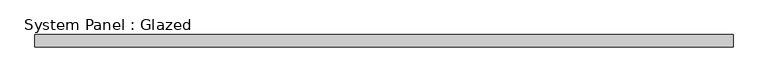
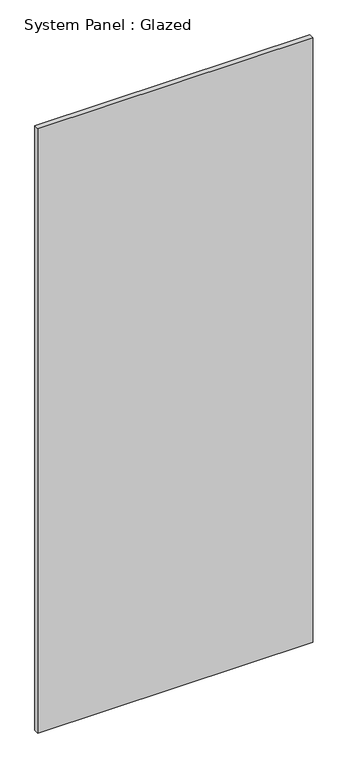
"""IFC4 building model written with IfcOpenShell, lengths in millimetres: plate geometry, System Panel : Glazed."""

import ifcopenshell
import ifcopenshell.guid

model = None  # the IFC model being written
_history = None  # IfcOwnerHistory: only IFC2X3 demands one
_inside = {}  # id of a spatial element -> (the spatial element, [elements in it])
_under = {}  # id of a project, library or spatial element -> (it, [spatial elements below it])
_declared = {}  # id of a project -> (the project, [libraries it declares])
_typed = {}  # id of a type object -> (the type object, [elements of that type])
_made_of = {}  # id of a material, layer set ... -> (it, [elements and type objects made of it])


def new_model(schema):
    """Start an empty IFC model of exactly this schema.

    Asked for "IFC4X3", IfcOpenShell would pick the latest addendum, in which some entities
    have other attributes; the version numbers below select the first issue.
    IFC2X3 requires an IfcOwnerHistory on every rooted entity: one is made here for all.
    """
    global model, _history
    if schema == "IFC4X3":
        model = ifcopenshell.file(schema_version=(4, 3, 0, 0))
    else:
        model = ifcopenshell.file(schema=schema)
    _inside.clear()
    _under.clear()
    _declared.clear()
    _typed.clear()
    _made_of.clear()
    _history = None
    if model.schema == "IFC2X3":
        org = make("IfcOrganization", Name="unknown")
        user = make(
            "IfcPersonAndOrganization",
            ThePerson=make("IfcPerson", FamilyName="unknown"),
            TheOrganization=org,
        )
        app = make(
            "IfcApplication",
            ApplicationDeveloper=org,
            Version="unknown",
            ApplicationFullName="unknown",
            ApplicationIdentifier="unknown",
        )
        _history = make(
            "IfcOwnerHistory",
            OwningUser=user,
            OwningApplication=app,
            ChangeAction="ADDED",
            CreationDate=0,
        )
    return model


def make(cls, **values):
    """One entity of the class cls with the attributes given. An attribute that is None is left unset."""
    return model.create_entity(
        cls, **{name: value for name, value in values.items() if value is not None}
    )


def rooted(cls, **values):
    """An entity with a GlobalId (a new one), such as an element, a storey or a relation."""
    return make(cls, GlobalId=ifcopenshell.guid.new(), OwnerHistory=_history, **values)


def si_unit(unit_type, name, prefix=None):
    """IfcSIUnit, for example si_unit("LENGTHUNIT", "METRE", prefix="MILLI")."""
    return make("IfcSIUnit", UnitType=unit_type, Prefix=prefix, Name=name)


def assignment(units):
    """IfcUnitAssignment: the units of a project."""
    return None if units is None else make("IfcUnitAssignment", Units=units)


def point(xyz):
    """IfcCartesianPoint."""
    return None if xyz is None else make("IfcCartesianPoint", Coordinates=xyz)


def direction(xyz):
    """IfcDirection."""
    return None if xyz is None else make("IfcDirection", DirectionRatios=xyz)


def frame(location, z_axis=None, x_axis=None):
    """IfcAxis2Placement3D, a coordinate frame: its origin and axes. An axis left out is left unset."""
    return make(
        "IfcAxis2Placement3D",
        Location=point(location),
        Axis=direction(z_axis),
        RefDirection=direction(x_axis),
    )


def origin():
    """The frame at (0, 0, 0) with its axes left unset."""
    return frame((0.0, 0.0, 0.0))


def origin_with_axes():
    """The frame at (0, 0, 0) with the z axis (0, 0, 1) and the x axis (1, 0, 0) written out."""
    return frame((0.0, 0.0, 0.0), z_axis=(0.0, 0.0, 1.0), x_axis=(1.0, 0.0, 0.0))


def place(relative_to, where):
    """IfcLocalPlacement: puts the frame where relative to a parent placement (None: the world)."""
    return make(
        "IfcLocalPlacement", PlacementRelTo=relative_to, RelativePlacement=where
    )


def context(
    kind, dimensions, precision=None, world=None, true_north=None, identifier=None
):
    """IfcGeometricRepresentationContext, for example the 3D "Model" context."""
    return make(
        "IfcGeometricRepresentationContext",
        ContextIdentifier=identifier,
        ContextType=kind,
        CoordinateSpaceDimension=dimensions,
        Precision=precision,
        WorldCoordinateSystem=world,
        TrueNorth=true_north,
    )


def project(units=None, contexts=None):
    """IfcProject with its units and contexts."""
    return rooted(
        "IfcProject",
        Name="project",
        RepresentationContexts=contexts,
        UnitsInContext=assignment(units),
    )


def spatial(cls, under=None, at=None, **own):
    """A site, building, storey or space (cls), placed at a placement, below another one or the project."""
    s = rooted(cls, ObjectPlacement=at, **own)
    if under is not None:
        _under.setdefault(under.id(), (under, []))[1].append(s)
    return s


def polyline(points):
    """IfcPolyline through the points."""
    return make("IfcPolyline", Points=[point(p) for p in points])


def outline(outer, holes=None, kind="AREA"):
    """IfcArbitraryClosedProfileDef: a profile drawn as a closed curve; with holes, ...WithVoids."""
    if holes is None:
        return make("IfcArbitraryClosedProfileDef", ProfileType=kind, OuterCurve=outer)
    return make(
        "IfcArbitraryProfileDefWithVoids",
        ProfileType=kind,
        OuterCurve=outer,
        InnerCurves=holes,
    )


def extrude(swept, where, along, depth):
    """IfcExtrudedAreaSolid: the profile swept, set in the frame where, extruded along a direction by depth."""
    return make(
        "IfcExtrudedAreaSolid",
        SweptArea=swept,
        Position=where,
        ExtrudedDirection=direction(along),
        Depth=depth,
    )


def shape(context_of_items, identifier, shape_type, items):
    """IfcShapeRepresentation: the items that make up one representation, for example the "Body"."""
    return make(
        "IfcShapeRepresentation",
        ContextOfItems=context_of_items,
        RepresentationIdentifier=identifier,
        RepresentationType=shape_type,
        Items=items,
    )


def source(mapping_origin, context_of_items, identifier, shape_type, items):
    """IfcRepresentationMap: a shape defined once, which mapped items show again and again."""
    return make(
        "IfcRepresentationMap",
        MappingOrigin=mapping_origin,
        MappedRepresentation=shape(context_of_items, identifier, shape_type, items),
    )


def transform(
    local_origin,
    x_axis=None,
    y_axis=None,
    z_axis=None,
    scale=None,
    scale2=None,
    scale3=None,
    uniform=True,
):
    """IfcCartesianTransformationOperator3D, or its non-uniform kind. x_axis, y_axis, z_axis: its Axis1, 2, 3."""
    if uniform:
        return make(
            "IfcCartesianTransformationOperator3D",
            Axis1=direction(x_axis),
            Axis2=direction(y_axis),
            LocalOrigin=point(local_origin),
            Scale=scale,
            Axis3=direction(z_axis),
        )
    return make(
        "IfcCartesianTransformationOperator3DnonUniform",
        Axis1=direction(x_axis),
        Axis2=direction(y_axis),
        LocalOrigin=point(local_origin),
        Scale=scale,
        Axis3=direction(z_axis),
        Scale2=scale2,
        Scale3=scale3,
    )


def mapped(mapping_source, mapping_target):
    """IfcMappedItem: shows the shape of a source again, moved by a transform."""
    return make(
        "IfcMappedItem", MappingSource=mapping_source, MappingTarget=mapping_target
    )


def made_of(thing, what):
    """Note that an element or type object is made of a material, layer set ...; save() writes the relation."""
    if what is not None:
        _made_of.setdefault(what.id(), (what, []))[1].append(thing)
    return thing


def element(
    cls,
    number,
    at=None,
    inside=None,
    cuts=None,
    type_object=None,
    material=None,
    context=None,
    identifier="Body",
    shape_type=None,
    held_by="IfcProductDefinitionShape",
    body=None,
    shapes=None,
    **own,
):
    """One element of the class cls, such as IfcWall. Its Tag is "e" and its number.

    at: its placement. inside: the storey or other place that contains it. cuts: it is an
    opening in that element (IfcRelVoidsElement). A single representation is given by context,
    identifier, shape_type and body (its items); several are given by shapes. held_by: the class
    of the entity that holds the representations. save() writes the other relations.
    """
    e = rooted(cls, Tag="e%d" % number, ObjectPlacement=at, **own)
    if body is not None:
        shapes = [shape(context, identifier, shape_type, body)]
    if shapes is not None:
        e.Representation = make(held_by, Representations=shapes)
    if inside is not None:
        _inside.setdefault(inside.id(), (inside, []))[1].append(e)
    if cuts is not None:
        rooted(
            "IfcRelVoidsElement", RelatingBuildingElement=cuts, RelatedOpeningElement=e
        )
    if type_object is not None:
        _typed.setdefault(type_object.id(), (type_object, []))[1].append(e)
    return made_of(e, material)


def aggregate(whole, parts):
    """IfcRelAggregates: a whole, such as a stair, and the parts it consists of."""
    return rooted("IfcRelAggregates", RelatingObject=whole, RelatedObjects=parts)


def save(model, path):
    """Write the relations noted so far, then the file.

    IfcRelAggregates (storeys below a building ...), IfcRelContainedInSpatialStructure (elements
    in a storey), IfcRelDefinesByType, IfcRelAssociatesMaterial and IfcRelDeclares: one each for
    every whole, place, type object, material and project.
    """
    for whole, parts in _under.values():
        aggregate(whole, parts)
    for where, things in _inside.values():
        rooted(
            "IfcRelContainedInSpatialStructure",
            RelatedElements=things,
            RelatingStructure=where,
        )
    for kind, things in _typed.values():
        rooted("IfcRelDefinesByType", RelatedObjects=things, RelatingType=kind)
    for what, things in _made_of.values():
        rooted("IfcRelAssociatesMaterial", RelatedObjects=things, RelatingMaterial=what)
    for by, libraries in _declared.values():
        rooted("IfcRelDeclares", RelatingContext=by, RelatedDefinitions=libraries)
    model.write(path)


def system_panel_glazed_4545aa77(model_context):
    return source(origin(), model_context, "Body", "SweptSolid", [
        extrude(outline(polyline([(710.0, 24.5), (-710.0, 24.5), (-710.0, 49.5), (710.0, 49.5), (710.0, 24.5)])), origin_with_axes(), (0.0, 0.0, 1.0), 3300.0),
    ])


if __name__ == "__main__":
    model = new_model("IFC4")
    model_context = context("Model", 3, world=origin())
    ifc_project = project(units=[si_unit("LENGTHUNIT", "METRE", prefix="MILLI")], contexts=[model_context])
    site = spatial("IfcSite", under=ifc_project)
    building = spatial("IfcBuilding", under=site)
    placement = place(None, origin())
    system_panel_glazed_shape = system_panel_glazed_4545aa77(model_context)
    element("IfcPlate", 1, ObjectType="System Panel : Glazed", at=placement, inside=building, context=model_context, shape_type="MappedRepresentation", body=[
        mapped(system_panel_glazed_shape, transform((0.0, 0.0, 0.0), x_axis=(1.0, 0.0, 0.0), y_axis=(0.0, 1.0, 0.0), z_axis=(0.0, 0.0, 1.0))),
    ])
    save(model, "model.ifc")
